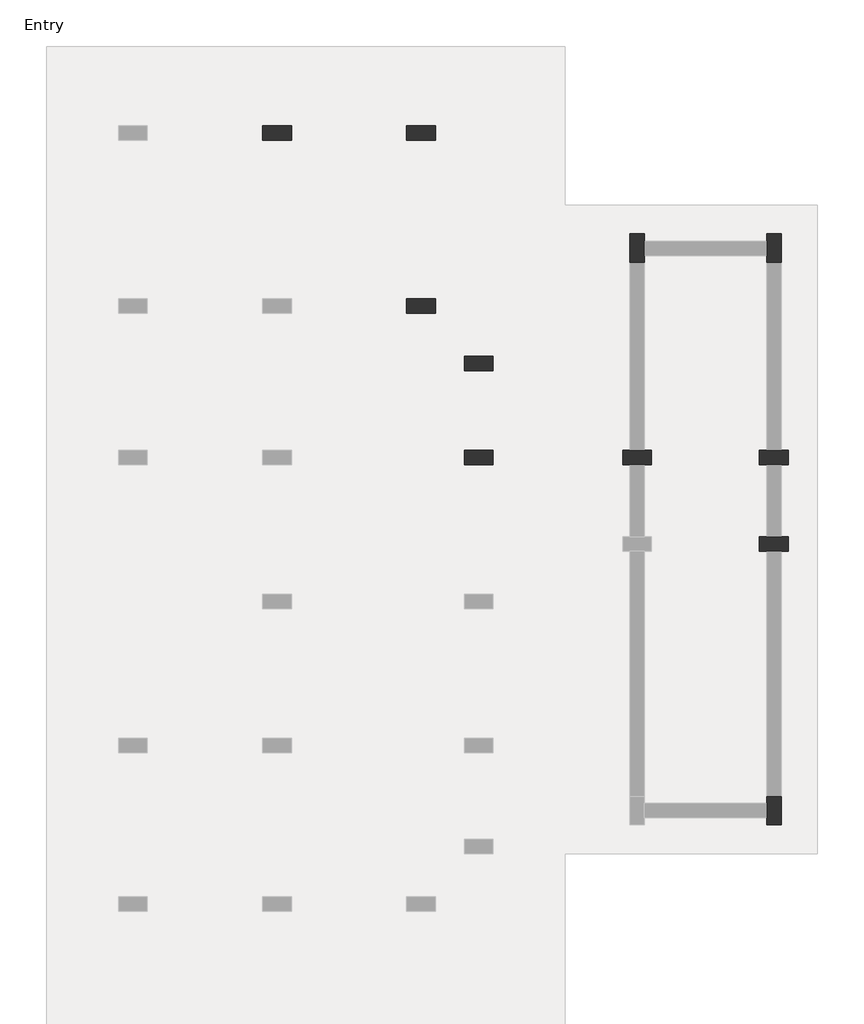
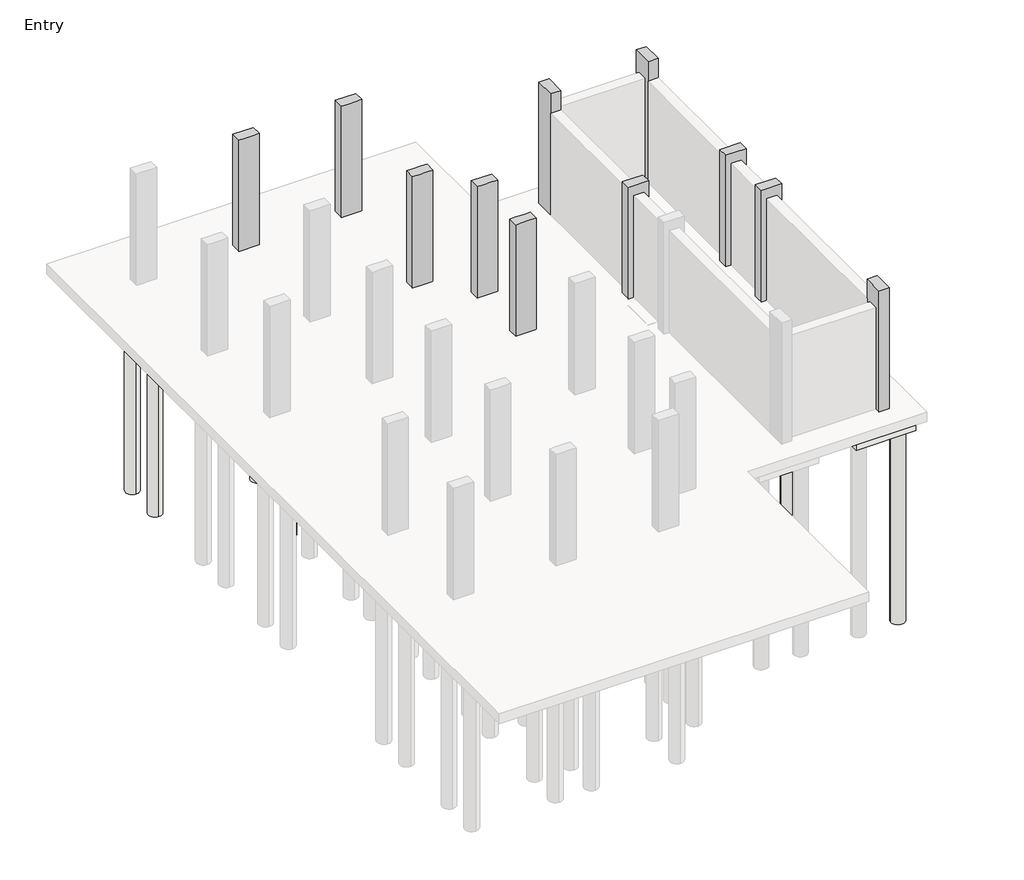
# One storey, part 3 of 3: 35 slabs, 11 columns.
"""IFC4 building model written with IfcOpenShell, lengths in millimetres."""

import ifcopenshell
import ifcopenshell.guid

model = None  # the IFC model being written
_history = None  # IfcOwnerHistory: only IFC2X3 demands one
_inside = {}  # id of a spatial element -> (the spatial element, [elements in it])
_under = {}  # id of a project, library or spatial element -> (it, [spatial elements below it])
_declared = {}  # id of a project -> (the project, [libraries it declares])
_typed = {}  # id of a type object -> (the type object, [elements of that type])
_made_of = {}  # id of a material, layer set ... -> (it, [elements and type objects made of it])


def new_model(schema):
    """Start an empty IFC model of exactly this schema.

    Asked for "IFC4X3", IfcOpenShell would pick the latest addendum, in which some entities
    have other attributes; the version numbers below select the first issue.
    IFC2X3 requires an IfcOwnerHistory on every rooted entity: one is made here for all.
    """
    global model, _history
    if schema == "IFC4X3":
        model = ifcopenshell.file(schema_version=(4, 3, 0, 0))
    else:
        model = ifcopenshell.file(schema=schema)
    _inside.clear()
    _under.clear()
    _declared.clear()
    _typed.clear()
    _made_of.clear()
    _history = None
    if model.schema == "IFC2X3":
        org = make("IfcOrganization", Name="unknown")
        user = make(
            "IfcPersonAndOrganization",
            ThePerson=make("IfcPerson", FamilyName="unknown"),
            TheOrganization=org,
        )
        app = make(
            "IfcApplication",
            ApplicationDeveloper=org,
            Version="unknown",
            ApplicationFullName="unknown",
            ApplicationIdentifier="unknown",
        )
        _history = make(
            "IfcOwnerHistory",
            OwningUser=user,
            OwningApplication=app,
            ChangeAction="ADDED",
            CreationDate=0,
        )
    return model


def make(cls, **values):
    """One entity of the class cls with the attributes given. An attribute that is None is left unset."""
    return model.create_entity(
        cls, **{name: value for name, value in values.items() if value is not None}
    )


def rooted(cls, **values):
    """An entity with a GlobalId (a new one), such as an element, a storey or a relation."""
    return make(cls, GlobalId=ifcopenshell.guid.new(), OwnerHistory=_history, **values)


def si_unit(unit_type, name, prefix=None):
    """IfcSIUnit, for example si_unit("LENGTHUNIT", "METRE", prefix="MILLI")."""
    return make("IfcSIUnit", UnitType=unit_type, Prefix=prefix, Name=name)


def assignment(units):
    """IfcUnitAssignment: the units of a project."""
    return None if units is None else make("IfcUnitAssignment", Units=units)


def point(xyz):
    """IfcCartesianPoint."""
    return None if xyz is None else make("IfcCartesianPoint", Coordinates=xyz)


def direction(xyz):
    """IfcDirection."""
    return None if xyz is None else make("IfcDirection", DirectionRatios=xyz)


def frame(location, z_axis=None, x_axis=None):
    """IfcAxis2Placement3D, a coordinate frame: its origin and axes. An axis left out is left unset."""
    return make(
        "IfcAxis2Placement3D",
        Location=point(location),
        Axis=direction(z_axis),
        RefDirection=direction(x_axis),
    )


def frame_2d(location, x_axis=None):
    """IfcAxis2Placement2D, a coordinate frame in the plane: its origin and x axis."""
    return make(
        "IfcAxis2Placement2D", Location=point(location), RefDirection=direction(x_axis)
    )


def origin():
    """The frame at (0, 0, 0) with its axes left unset."""
    return frame((0.0, 0.0, 0.0))


def place(relative_to, where):
    """IfcLocalPlacement: puts the frame where relative to a parent placement (None: the world)."""
    return make(
        "IfcLocalPlacement", PlacementRelTo=relative_to, RelativePlacement=where
    )


def context(
    kind, dimensions, precision=None, world=None, true_north=None, identifier=None
):
    """IfcGeometricRepresentationContext, for example the 3D "Model" context."""
    return make(
        "IfcGeometricRepresentationContext",
        ContextIdentifier=identifier,
        ContextType=kind,
        CoordinateSpaceDimension=dimensions,
        Precision=precision,
        WorldCoordinateSystem=world,
        TrueNorth=true_north,
    )


def project(units=None, contexts=None):
    """IfcProject with its units and contexts."""
    return rooted(
        "IfcProject",
        Name="project",
        RepresentationContexts=contexts,
        UnitsInContext=assignment(units),
    )


def spatial(cls, under=None, at=None, **own):
    """A site, building, storey or space (cls), placed at a placement, below another one or the project."""
    s = rooted(cls, ObjectPlacement=at, **own)
    if under is not None:
        _under.setdefault(under.id(), (under, []))[1].append(s)
    return s


def polyline(points):
    """IfcPolyline through the points."""
    return make("IfcPolyline", Points=[point(p) for p in points])


def circle_curve(where, radius):
    """IfcCircle in the frame where."""
    return make("IfcCircle", Position=where, Radius=radius)


def trimmed(basis, trim1, trim2, sense, master):
    """IfcTrimmedCurve: the piece of a basis curve between two trims."""
    return make(
        "IfcTrimmedCurve",
        BasisCurve=basis,
        Trim1=trim1,
        Trim2=trim2,
        SenseAgreement=sense,
        MasterRepresentation=master,
    )


def segment(curve, same_sense, transition):
    """IfcCompositeCurveSegment."""
    return make(
        "IfcCompositeCurveSegment",
        Transition=transition,
        SameSense=same_sense,
        ParentCurve=curve,
    )


def composite_curve(segments, self_intersect=None):
    """IfcCompositeCurve: segments joined end to end."""
    return make("IfcCompositeCurve", Segments=segments, SelfIntersect=self_intersect)


def outline(outer, holes=None, kind="AREA"):
    """IfcArbitraryClosedProfileDef: a profile drawn as a closed curve; with holes, ...WithVoids."""
    if holes is None:
        return make("IfcArbitraryClosedProfileDef", ProfileType=kind, OuterCurve=outer)
    return make(
        "IfcArbitraryProfileDefWithVoids",
        ProfileType=kind,
        OuterCurve=outer,
        InnerCurves=holes,
    )


def extrude(swept, where, along, depth):
    """IfcExtrudedAreaSolid: the profile swept, set in the frame where, extruded along a direction by depth."""
    return make(
        "IfcExtrudedAreaSolid",
        SweptArea=swept,
        Position=where,
        ExtrudedDirection=direction(along),
        Depth=depth,
    )


def faces_of(points, faces, orient=None, outer=None):
    """IfcFace entities. A face is a list of loops; a loop is a list of indices into points, from 0.

    orient and outer hold one flag for each loop. By default every Orientation is true, the
    first loop of a face is its IfcFaceOuterBound and the others are IfcFaceBound.
    """
    made = []
    for i, loops in enumerate(faces):
        bounds = []
        for j, loop in enumerate(loops):
            is_outer = j == 0 if outer is None else outer[i][j]
            bounds.append(
                make(
                    "IfcFaceOuterBound" if is_outer else "IfcFaceBound",
                    Bound=make("IfcPolyLoop", Polygon=[points[k] for k in loop]),
                    Orientation=True if orient is None else orient[i][j],
                )
            )
        made.append(make("IfcFace", Bounds=bounds))
    return made


def faceted_brep(points, faces, orient=None, outer=None, voids=None):
    """IfcFacetedBrep: a solid bounded by flat faces; with voids (closed shells), ...WithVoids."""
    shared = [point(p) for p in points]
    hull = make("IfcClosedShell", CfsFaces=faces_of(shared, faces, orient, outer))
    if voids is None:
        return make("IfcFacetedBrep", Outer=hull)
    return make(
        "IfcFacetedBrepWithVoids",
        Outer=hull,
        Voids=[
            make(cls, CfsFaces=faces_of(shared, fs, o, b)) for cls, fs, o, b in voids
        ],
    )


def shape(context_of_items, identifier, shape_type, items):
    """IfcShapeRepresentation: the items that make up one representation, for example the "Body"."""
    return make(
        "IfcShapeRepresentation",
        ContextOfItems=context_of_items,
        RepresentationIdentifier=identifier,
        RepresentationType=shape_type,
        Items=items,
    )


def made_of(thing, what):
    """Note that an element or type object is made of a material, layer set ...; save() writes the relation."""
    if what is not None:
        _made_of.setdefault(what.id(), (what, []))[1].append(thing)
    return thing


def element(
    cls,
    number,
    at=None,
    inside=None,
    cuts=None,
    type_object=None,
    material=None,
    context=None,
    identifier="Body",
    shape_type=None,
    held_by="IfcProductDefinitionShape",
    body=None,
    shapes=None,
    **own,
):
    """One element of the class cls, such as IfcWall. Its Tag is "e" and its number.

    at: its placement. inside: the storey or other place that contains it. cuts: it is an
    opening in that element (IfcRelVoidsElement). A single representation is given by context,
    identifier, shape_type and body (its items); several are given by shapes. held_by: the class
    of the entity that holds the representations. save() writes the other relations.
    """
    e = rooted(cls, Tag="e%d" % number, ObjectPlacement=at, **own)
    if body is not None:
        shapes = [shape(context, identifier, shape_type, body)]
    if shapes is not None:
        e.Representation = make(held_by, Representations=shapes)
    if inside is not None:
        _inside.setdefault(inside.id(), (inside, []))[1].append(e)
    if cuts is not None:
        rooted(
            "IfcRelVoidsElement", RelatingBuildingElement=cuts, RelatedOpeningElement=e
        )
    if type_object is not None:
        _typed.setdefault(type_object.id(), (type_object, []))[1].append(e)
    return made_of(e, material)


def aggregate(whole, parts):
    """IfcRelAggregates: a whole, such as a stair, and the parts it consists of."""
    return rooted("IfcRelAggregates", RelatingObject=whole, RelatedObjects=parts)


def save(model, path):
    """Write the relations noted so far, then the file.

    IfcRelAggregates (storeys below a building ...), IfcRelContainedInSpatialStructure (elements
    in a storey), IfcRelDefinesByType, IfcRelAssociatesMaterial and IfcRelDeclares: one each for
    every whole, place, type object, material and project.
    """
    for whole, parts in _under.values():
        aggregate(whole, parts)
    for where, things in _inside.values():
        rooted(
            "IfcRelContainedInSpatialStructure",
            RelatedElements=things,
            RelatingStructure=where,
        )
    for kind, things in _typed.values():
        rooted("IfcRelDefinesByType", RelatedObjects=things, RelatingType=kind)
    for what, things in _made_of.values():
        rooted("IfcRelAssociatesMaterial", RelatedObjects=things, RelatingMaterial=what)
    for by, libraries in _declared.values():
        rooted("IfcRelDeclares", RelatingContext=by, RelatedDefinitions=libraries)
    model.write(path)


model = new_model("IFC4")

# Units and contexts
model_context = context("Model", 3, world=origin())
ifc_project = project(units=[si_unit("LENGTHUNIT", "METRE", prefix="MILLI")], contexts=[model_context])

# Site, building, storey
site = spatial("IfcSite", under=ifc_project)
building = spatial("IfcBuilding", under=site)
storey = spatial("IfcBuildingStorey", under=building, Name="Entry", Elevation=0.0)

# Columns
placement = place(None, origin())
element("IfcColumn", 1, ObjectType="Concrete-Rectangular-Column : 12 x 24", at=placement, inside=storey, context=model_context, shape_type="Brep", body=[
    faceted_brep([(-10423.1073204, 23769.0572372, 0.0), (-9813.5073204, 23769.0572372, 0.0), (-9813.5073204, 23464.2572372, 0.0), (-10423.1073204, 23464.2572372, 0.0), (-10423.1073204, 23769.0572372, 3505.2), (-9813.5073204, 23769.0572372, 3505.2), (-9813.5073204, 23769.0572372, 2895.6), (-10423.1073204, 23769.0572372, 2895.6), (-9813.5073204, 23464.2572372, 3505.2), (-9813.5073204, 23464.2572372, 2895.6), (-9965.9073204, 23464.2572372, 3505.2), (-10270.7073204, 23464.2572372, 3505.2), (-10423.1073204, 23464.2572372, 3505.2), (-10423.1073204, 23464.2572372, 2895.6)], [[[0, 1, 2, 3]], [[4, 5, 6, 1, 0, 7]], [[5, 8, 9, 2, 1, 6]], [[8, 10, 11, 12, 13, 3, 2, 9]], [[12, 4, 7, 0, 3, 13]], [[4, 12, 11, 10, 8, 5]]]),
])
element("IfcColumn", 2, ObjectType="Concrete-Rectangular-Column : 12 x 24", at=placement, inside=storey, context=model_context, shape_type="Brep", body=[
    faceted_brep([(-7375.1073204, 23769.0572372, 0.0), (-6765.5073204, 23769.0572372, 0.0), (-6765.5073204, 23464.2572372, 0.0), (-7375.1073204, 23464.2572372, 0.0), (-7375.1073204, 23769.0572372, 3505.2), (-6765.5073204, 23769.0572372, 3505.2), (-7375.1073204, 23769.0572372, 2895.6), (-6765.5073204, 23464.2572372, 3505.2), (-6917.9073204, 23464.2572372, 3505.2), (-7222.7073204, 23464.2572372, 3505.2), (-7375.1073204, 23464.2572372, 3505.2), (-7375.1073204, 23464.2572372, 2895.6)], [[[0, 1, 2, 3]], [[4, 5, 1, 0, 6]], [[5, 7, 2, 1]], [[7, 8, 9, 10, 11, 3, 2]], [[10, 4, 6, 0, 3, 11]], [[4, 10, 9, 8, 7, 5]]]),
])
element("IfcColumn", 3, ObjectType="Concrete-Rectangular-Column : 12 x 24", at=placement, inside=storey, context=model_context, shape_type="Brep", body=[
    faceted_brep([(-7375.1073204, 20111.4572372, 0.0), (-6765.5073204, 20111.4572372, 0.0), (-6765.5073204, 19806.6572372, 0.0), (-7375.1073204, 19806.6572372, 0.0), (-7375.1073204, 20111.4572372, 3505.2), (-7222.7073204, 20111.4572372, 3505.2), (-6917.9073204, 20111.4572372, 3505.2), (-6765.5073204, 20111.4572372, 3505.2), (-7375.1073204, 20111.4572372, 2895.6), (-6765.5073204, 19806.6572372, 3505.2), (-6917.9073204, 19806.6572372, 3505.2), (-7222.7073204, 19806.6572372, 3505.2), (-7375.1073204, 19806.6572372, 3505.2), (-7375.1073204, 19806.6572372, 2895.6)], [[[0, 1, 2, 3]], [[4, 5, 6, 7, 1, 0, 8]], [[7, 9, 2, 1]], [[9, 10, 11, 12, 13, 3, 2]], [[12, 4, 8, 0, 3, 13]], [[4, 12, 11, 10, 9, 7, 6, 5]]]),
])
element("IfcColumn", 4, ObjectType="Concrete-Rectangular-Column : 12 x 24", at=placement, inside=storey, context=model_context, shape_type="Brep", body=[
    faceted_brep([(-6156.6500241, 18892.9999409, 0.0), (-5547.0500241, 18892.9999409, 0.0), (-5547.0500241, 18588.1999409, 0.0), (-6156.6500241, 18588.1999409, 0.0), (-6156.6500241, 18892.9999409, 3505.2), (-5547.0500241, 18892.9999409, 3505.2), (-6156.6500241, 18892.9999409, 2895.6), (-5547.0500241, 18588.1999409, 3505.2), (-5699.4500241, 18588.1999409, 3505.2), (-6004.2500241, 18588.1999409, 3505.2), (-6156.6500241, 18588.1999409, 3505.2), (-6156.6500241, 18588.1999409, 2895.6)], [[[0, 1, 2, 3]], [[4, 5, 1, 0, 6]], [[5, 7, 2, 1]], [[7, 8, 9, 10, 11, 3, 2]], [[10, 4, 6, 0, 3, 11]], [[4, 10, 9, 8, 7, 5]]]),
])
element("IfcColumn", 5, ObjectType="Concrete-Rectangular-Column : 12 x 24", at=placement, inside=storey, context=model_context, shape_type="Brep", body=[
    faceted_brep([(-6156.6500241, 16911.0572372, 0.0), (-5547.0500241, 16911.0572372, 0.0), (-5547.0500241, 16606.2572372, 0.0), (-6156.6500241, 16606.2572372, 0.0), (-6156.6500241, 16911.0572372, 3505.2), (-6004.2500241, 16911.0572372, 3505.2), (-5699.4500241, 16911.0572372, 3505.2), (-5547.0500241, 16911.0572372, 3505.2), (-5547.0500241, 16911.0572372, 2895.6), (-6156.6500241, 16911.0572372, 2895.6), (-5547.0500241, 16606.2572372, 3505.2), (-5547.0500241, 16606.2572372, 2895.6), (-5699.4500241, 16606.2572372, 3505.2), (-6004.2500241, 16606.2572372, 3505.2), (-6156.6500241, 16606.2572372, 3505.2), (-6156.6500241, 16606.2572372, 2895.6)], [[[0, 1, 2, 3]], [[4, 5, 6, 7, 8, 1, 0, 9]], [[7, 10, 11, 2, 1, 8]], [[10, 12, 13, 14, 15, 3, 2, 11]], [[14, 4, 9, 0, 3, 15]], [[4, 14, 13, 12, 10, 7, 6, 5]]]),
])
element("IfcColumn", 6, ObjectType="Concrete-Rectangular-Column : 12 x 24", at=placement, inside=storey, context=model_context, shape_type="Brep", body=[
    faceted_brep([(-2803.8500241, 16911.0572372, 0.0), (-2651.4500241, 16911.0572372, 0.0), (-2346.6500241, 16911.0572372, 0.0), (-2194.2500241, 16911.0572372, 0.0), (-2194.2500241, 16606.2572372, 0.0), (-2346.6500241, 16606.2572372, 0.0), (-2651.4500241, 16606.2572372, 0.0), (-2803.8500241, 16606.2572372, 0.0), (-2803.8500241, 16911.0572372, 3505.2), (-2194.2500241, 16911.0572372, 3505.2), (-2194.2500241, 16606.2572372, 3505.2), (-2803.8500241, 16606.2572372, 3505.2)], [[[0, 1, 2, 3, 4, 5, 6, 7]], [[3, 2, 1, 0, 8, 9]], [[4, 3, 9, 10]], [[7, 6, 5, 4, 10, 11]], [[0, 7, 11, 8]], [[9, 8, 11, 10]]]),
])
element("IfcColumn", 7, ObjectType="Concrete-Rectangular-Column : 12 x 24", at=placement, inside=storey, context=model_context, shape_type="Brep", body=[
    faceted_brep([(89.9860546, 16911.0572372, 0.0), (242.3860546, 16911.0572372, 0.0), (547.1860546, 16911.0572372, 0.0), (699.5860546, 16911.0572372, 0.0), (699.5860546, 16606.2572372, 0.0), (547.1860546, 16606.2572372, 0.0), (242.3860546, 16606.2572372, 0.0), (89.9860546, 16606.2572372, 0.0), (89.9860546, 16911.0572372, 3505.2), (699.5860546, 16911.0572372, 3505.2), (699.5860546, 16606.2572372, 3505.2), (89.9860546, 16606.2572372, 3505.2)], [[[0, 1, 2, 3, 4, 5, 6, 7]], [[3, 2, 1, 0, 8, 9]], [[4, 3, 9, 10]], [[7, 6, 5, 4, 10, 11]], [[0, 7, 11, 8]], [[9, 8, 11, 10]]]),
])
element("IfcColumn", 8, ObjectType="Concrete-Rectangular-Column : 12 x 24", at=placement, inside=storey, context=model_context, shape_type="Brep", body=[
    faceted_brep([(89.9860546, 15082.2572372, 0.0), (242.3860546, 15082.2572372, 0.0), (547.1860546, 15082.2572372, 0.0), (699.5860546, 15082.2572372, 0.0), (699.5860546, 14777.4572372, 0.0), (547.1860546, 14777.4572372, 0.0), (242.3860546, 14777.4572372, 0.0), (89.9860546, 14777.4572372, 0.0), (89.9860546, 15082.2572372, 3505.2), (699.5860546, 15082.2572372, 3505.2), (699.5860546, 14777.4572372, 3505.2), (89.9860546, 14777.4572372, 3505.2)], [[[0, 1, 2, 3, 4, 5, 6, 7]], [[3, 2, 1, 0, 8, 9]], [[4, 3, 9, 10]], [[7, 6, 5, 4, 10, 11]], [[0, 7, 11, 8]], [[9, 8, 11, 10]]]),
])
element("IfcColumn", 9, ObjectType="Concrete-Rectangular-Column : 12 x 24", at=placement, inside=storey, context=model_context, shape_type="Brep", body=[
    faceted_brep([(-2346.6500241, 21483.0572372, 0.0), (-2346.6500241, 21330.6572372, 0.0), (-2346.6500241, 21025.8572372, 0.0), (-2346.6500241, 20873.4572372, 0.0), (-2651.4500241, 20873.4572372, 0.0), (-2651.4500241, 21483.0572372, 0.0), (-2346.6500241, 21483.0572372, 3810.0), (-2346.6500241, 20873.4572372, 3810.0), (-2346.6500241, 20873.4572372, 3200.4), (-2651.4500241, 20873.4572372, 3810.0), (-2651.4500241, 20873.4572372, 3200.4), (-2651.4500241, 21483.0572372, 3810.0)], [[[0, 1, 2, 3, 4, 5]], [[6, 7, 8, 3, 2, 1, 0]], [[7, 9, 10, 4, 3, 8]], [[9, 11, 5, 4, 10]], [[11, 6, 0, 5]], [[6, 11, 9, 7]]]),
])
element("IfcColumn", 10, ObjectType="Concrete-Rectangular-Column : 12 x 24", at=placement, inside=storey, context=model_context, shape_type="Brep", body=[
    faceted_brep([(547.1860546, 21483.0572372, 0.0), (547.1860546, 20873.4572372, 0.0), (242.3860546, 20873.4572372, 0.0), (242.3860546, 21025.8572372, 0.0), (242.3860546, 21330.6572372, 0.0), (242.3860546, 21483.0572372, 0.0), (547.1860546, 21483.0572372, 3810.0), (547.1860546, 20873.4572372, 3810.0), (547.1860546, 20873.4572372, 3200.4), (242.3860546, 20873.4572372, 3810.0), (242.3860546, 20873.4572372, 3200.4), (242.3860546, 21483.0572372, 3810.0)], [[[0, 1, 2, 3, 4, 5]], [[6, 7, 8, 1, 0]], [[7, 9, 10, 2, 1, 8]], [[9, 11, 5, 4, 3, 2, 10]], [[11, 6, 0, 5]], [[6, 11, 9, 7]]]),
])
element("IfcColumn", 11, ObjectType="Concrete-Rectangular-Column : 12 x 24", at=placement, inside=storey, context=model_context, shape_type="Brep", body=[
    faceted_brep([(547.1860546, 9595.8572372, 0.0), (547.1860546, 8986.2572372, 0.0), (242.3860546, 8986.2572372, 0.0), (242.3860546, 9138.6572372, 0.0), (242.3860546, 9443.4572372, 0.0), (242.3860546, 9595.8572372, 0.0), (547.1860546, 9595.8572372, 3810.0), (547.1860546, 8986.2572372, 3810.0), (547.1860546, 9595.8572372, 3200.4), (242.3860546, 8986.2572372, 3810.0), (242.3860546, 9595.8572372, 3810.0), (242.3860546, 9595.8572372, 3200.4)], [[[0, 1, 2, 3, 4, 5]], [[6, 7, 1, 0, 8]], [[7, 9, 2, 1]], [[9, 10, 11, 5, 4, 3, 2]], [[10, 6, 8, 0, 5, 11]], [[6, 10, 9, 7]]]),
])

# Slabs
element("IfcSlab", 12, ObjectType="Pile Cap-2 Pile : 31\"x61\"x35\"", at=placement, inside=storey, context=model_context, shape_type="SweptSolid", body=[
    extrude(outline(polyline([(-7476.7073204, 20848.0572372), (-6663.9073204, 20848.0572372), (-6663.9073204, 19070.0572372), (-7476.7073204, 19070.0572372), (-7476.7073204, 20848.0572372)])), frame((0.0, 0.0, -889.0), z_axis=(0.0, 0.0, 1.0), x_axis=(1.0, 0.0, 0.0)), (0.0, 0.0, 1.0), 584.2),
])
element("IfcSlab", 13, ObjectType="Pile Cap-2 Pile : 31\"x61\"x35\"", at=placement, inside=storey, context=model_context, shape_type="SweptSolid", body=[
    extrude(outline(polyline([(-10524.7073204, 24505.6572372), (-9711.9073204, 24505.6572372), (-9711.9073204, 22727.6572372), (-10524.7073204, 22727.6572372), (-10524.7073204, 24505.6572372)])), frame((0.0, 0.0, -889.0), z_axis=(0.0, 0.0, 1.0), x_axis=(1.0, 0.0, 0.0)), (0.0, 0.0, 1.0), 584.2),
])
element("IfcSlab", 14, ObjectType="Pile Cap-2 Pile : 31\"x61\"x35\"", at=placement, inside=storey, context=model_context, shape_type="SweptSolid", body=[
    extrude(outline(polyline([(-7476.7073204, 24505.6572372), (-6663.9073204, 24505.6572372), (-6663.9073204, 22727.6572372), (-7476.7073204, 22727.6572372), (-7476.7073204, 24505.6572372)])), frame((0.0, 0.0, -889.0), z_axis=(0.0, 0.0, 1.0), x_axis=(1.0, 0.0, 0.0)), (0.0, 0.0, 1.0), 584.2),
])
element("IfcSlab", 15, ObjectType="Pile Cap-2 Pile : 31\"x61\"x35\"", at=placement, inside=storey, context=model_context, shape_type="SweptSolid", body=[
    extrude(outline(polyline([(-6258.2500241, 17647.6572372), (-5445.4500241, 17647.6572372), (-5445.4500241, 15869.6572372), (-6258.2500241, 15869.6572372), (-6258.2500241, 17647.6572372)])), frame((0.0, 0.0, -889.0), z_axis=(0.0, 0.0, 1.0), x_axis=(1.0, 0.0, 0.0)), (0.0, 0.0, 1.0), 584.2),
])
element("IfcSlab", 16, ObjectType="Pile Cap-2 Pile : 31\"x61\"x35\"", at=placement, inside=storey, context=model_context, shape_type="SweptSolid", body=[
    extrude(outline(polyline([(-1610.0500241, 21584.6572372), (-1610.0500241, 20771.8572372), (-3388.0500241, 20771.8572372), (-3388.0500241, 21584.6572372), (-1610.0500241, 21584.6572372)])), frame((0.0, 0.0, -889.0), z_axis=(0.0, 0.0, 1.0), x_axis=(1.0, 0.0, 0.0)), (0.0, 0.0, 1.0), 584.2),
])
element("IfcSlab", 17, ObjectType="Pile Cap-2 Pile : 31\"x61\"x35\"", at=placement, inside=storey, context=model_context, shape_type="SweptSolid", body=[
    extrude(outline(polyline([(1283.7860546, 21584.6572372), (1283.7860546, 20771.8572372), (-494.2139454, 20771.8572372), (-494.2139454, 21584.6572372), (1283.7860546, 21584.6572372)])), frame((0.0, 0.0, -889.0), z_axis=(0.0, 0.0, 1.0), x_axis=(1.0, 0.0, 0.0)), (0.0, 0.0, 1.0), 584.2),
])
element("IfcSlab", 18, ObjectType="Pile Cap-2 Pile : 31\"x61\"x35\"", at=placement, inside=storey, context=model_context, shape_type="SweptSolid", body=[
    extrude(outline(polyline([(-494.2139454, 16352.2572372), (-494.2139454, 17165.0572372), (1283.7860546, 17165.0572372), (1283.7860546, 16352.2572372), (-494.2139454, 16352.2572372)])), frame((0.0, 0.0, -889.0), z_axis=(0.0, 0.0, 1.0), x_axis=(1.0, 0.0, 0.0)), (0.0, 0.0, 1.0), 584.2),
])
element("IfcSlab", 19, ObjectType="Pile Cap-2 Pile : 31\"x61\"x35\"", at=placement, inside=storey, context=model_context, shape_type="SweptSolid", body=[
    extrude(outline(polyline([(-494.2139454, 14523.4572372), (-494.2139454, 15336.2572372), (1283.7860546, 15336.2572372), (1283.7860546, 14523.4572372), (-494.2139454, 14523.4572372)])), frame((0.0, 0.0, -889.0), z_axis=(0.0, 0.0, 1.0), x_axis=(1.0, 0.0, 0.0)), (0.0, 0.0, 1.0), 584.2),
])
element("IfcSlab", 20, ObjectType="Pile Cap-2 Pile : 31\"x61\"x35\"", at=placement, inside=storey, context=model_context, shape_type="SweptSolid", body=[
    extrude(outline(polyline([(-3388.0500241, 16352.2572372), (-3388.0500241, 17165.0572372), (-1610.0500241, 17165.0572372), (-1610.0500241, 16352.2572372), (-3388.0500241, 16352.2572372)])), frame((0.0, 0.0, -889.0), z_axis=(0.0, 0.0, 1.0), x_axis=(1.0, 0.0, 0.0)), (0.0, 0.0, 1.0), 584.2),
])
element("IfcSlab", 21, ObjectType="Pile Cap-2 Pile : 31\"x61\"x35\"", at=placement, inside=storey, context=model_context, shape_type="SweptSolid", body=[
    extrude(outline(polyline([(1283.7860546, 9697.4572372), (1283.7860546, 8884.6572372), (-494.2139454, 8884.6572372), (-494.2139454, 9697.4572372), (1283.7860546, 9697.4572372)])), frame((0.0, 0.0, -889.0), z_axis=(0.0, 0.0, 1.0), x_axis=(1.0, 0.0, 0.0)), (0.0, 0.0, 1.0), 584.2),
])
element("IfcSlab", 22, ObjectType="Pile Cap-2 Pile : 31\"x61\"x35\"", at=placement, inside=storey, context=model_context, shape_type="SweptSolid", body=[
    extrude(outline(polyline([(-5445.4500241, 17850.8572372), (-6258.2500241, 17850.8572372), (-6258.2500241, 19628.8572372), (-5445.4500241, 19628.8572372), (-5445.4500241, 17850.8572372)])), frame((0.0, 0.0, -889.0), z_axis=(0.0, 0.0, 1.0), x_axis=(1.0, 0.0, 0.0)), (0.0, 0.0, 1.0), 584.2),
])
element("IfcSlab", 23, ObjectType="Pile-Steel Pipe : 16\" Diameter", at=placement, inside=storey, context=model_context, shape_type="SweptSolid", body=[
    extrude(outline(composite_curve([segment(trimmed(circle_curve(frame_2d((-9584.9073204, 20492.4572372)), 203.2), [point((-9584.9073204, 20289.2572372))], [point((-9584.9073204, 20695.6572372))], False, "CARTESIAN"), True, "CONTINUOUS"), segment(trimmed(circle_curve(frame_2d((-9584.9073204, 20492.4572372)), 203.2), [point((-9584.9073204, 20695.6572372))], [point((-9584.9073204, 20289.2572372))], False, "CARTESIAN"), True, "CONTINUOUS")], self_intersect=False)), frame((0.0, 0.0, -6985.0), z_axis=(0.0, 0.0, 1.0), x_axis=(1.0, 0.0, 0.0)), (0.0, 0.0, 1.0), 6096.0),
])
element("IfcSlab", 24, ObjectType="Pile-Steel Pipe : 16\" Diameter", at=placement, inside=storey, context=model_context, shape_type="SweptSolid", body=[
    extrude(outline(composite_curve([segment(trimmed(circle_curve(frame_2d((-10651.7073204, 20492.4572372)), 203.2), [point((-10651.7073204, 20289.2572372))], [point((-10651.7073204, 20695.6572372))], False, "CARTESIAN"), True, "CONTINUOUS"), segment(trimmed(circle_curve(frame_2d((-10651.7073204, 20492.4572372)), 203.2), [point((-10651.7073204, 20695.6572372))], [point((-10651.7073204, 20289.2572372))], False, "CARTESIAN"), True, "CONTINUOUS")], self_intersect=False)), frame((0.0, 0.0, -6985.0), z_axis=(0.0, 0.0, 1.0), x_axis=(1.0, 0.0, 0.0)), (0.0, 0.0, 1.0), 6096.0),
])
element("IfcSlab", 25, ObjectType="Pile-Steel Pipe : 16\" Diameter", at=placement, inside=storey, context=model_context, shape_type="SweptSolid", body=[
    extrude(outline(composite_curve([segment(trimmed(circle_curve(frame_2d((-13166.3073204, 23032.4572372)), 203.2), [point((-13166.3073204, 22829.2572372))], [point((-13166.3073204, 23235.6572372))], False, "CARTESIAN"), True, "CONTINUOUS"), segment(trimmed(circle_curve(frame_2d((-13166.3073204, 23032.4572372)), 203.2), [point((-13166.3073204, 23235.6572372))], [point((-13166.3073204, 22829.2572372))], False, "CARTESIAN"), True, "CONTINUOUS")], self_intersect=False)), frame((0.0, 0.0, -6985.0), z_axis=(0.0, 0.0, 1.0), x_axis=(1.0, 0.0, 0.0)), (0.0, 0.0, 1.0), 6096.0),
])
element("IfcSlab", 26, ObjectType="Pile-Steel Pipe : 16\" Diameter", at=placement, inside=storey, context=model_context, shape_type="SweptSolid", body=[
    extrude(outline(composite_curve([segment(trimmed(circle_curve(frame_2d((-13166.3073204, 24200.8572372)), 203.2), [point((-13166.3073204, 23997.6572372))], [point((-13166.3073204, 24404.0572372))], False, "CARTESIAN"), True, "CONTINUOUS"), segment(trimmed(circle_curve(frame_2d((-13166.3073204, 24200.8572372)), 203.2), [point((-13166.3073204, 24404.0572372))], [point((-13166.3073204, 23997.6572372))], False, "CARTESIAN"), True, "CONTINUOUS")], self_intersect=False)), frame((0.0, 0.0, -6985.0), z_axis=(0.0, 0.0, 1.0), x_axis=(1.0, 0.0, 0.0)), (0.0, 0.0, 1.0), 6096.0),
])
element("IfcSlab", 27, ObjectType="Pile-Steel Pipe : 16\" Diameter", at=placement, inside=storey, context=model_context, shape_type="SweptSolid", body=[
    extrude(outline(composite_curve([segment(trimmed(circle_curve(frame_2d((-7070.3073204, 19374.8572372)), 203.2), [point((-7070.3073204, 19171.6572372))], [point((-7070.3073204, 19578.0572372))], False, "CARTESIAN"), True, "CONTINUOUS"), segment(trimmed(circle_curve(frame_2d((-7070.3073204, 19374.8572372)), 203.2), [point((-7070.3073204, 19578.0572372))], [point((-7070.3073204, 19171.6572372))], False, "CARTESIAN"), True, "CONTINUOUS")], self_intersect=False)), frame((0.0, 0.0, -6985.0), z_axis=(0.0, 0.0, 1.0), x_axis=(1.0, 0.0, 0.0)), (0.0, 0.0, 1.0), 6096.0),
])
element("IfcSlab", 28, ObjectType="Pile-Steel Pipe : 16\" Diameter", at=placement, inside=storey, context=model_context, shape_type="SweptSolid", body=[
    extrude(outline(composite_curve([segment(trimmed(circle_curve(frame_2d((-7070.3073204, 20543.2572372)), 203.2), [point((-7070.3073204, 20340.0572372))], [point((-7070.3073204, 20746.4572372))], False, "CARTESIAN"), True, "CONTINUOUS"), segment(trimmed(circle_curve(frame_2d((-7070.3073204, 20543.2572372)), 203.2), [point((-7070.3073204, 20746.4572372))], [point((-7070.3073204, 20340.0572372))], False, "CARTESIAN"), True, "CONTINUOUS")], self_intersect=False)), frame((0.0, 0.0, -6985.0), z_axis=(0.0, 0.0, 1.0), x_axis=(1.0, 0.0, 0.0)), (0.0, 0.0, 1.0), 6096.0),
])
element("IfcSlab", 29, ObjectType="Pile-Steel Pipe : 16\" Diameter", at=placement, inside=storey, context=model_context, shape_type="SweptSolid", body=[
    extrude(outline(composite_curve([segment(trimmed(circle_curve(frame_2d((-10118.3073204, 23032.4572372)), 203.2), [point((-10118.3073204, 22829.2572372))], [point((-10118.3073204, 23235.6572372))], False, "CARTESIAN"), True, "CONTINUOUS"), segment(trimmed(circle_curve(frame_2d((-10118.3073204, 23032.4572372)), 203.2), [point((-10118.3073204, 23235.6572372))], [point((-10118.3073204, 22829.2572372))], False, "CARTESIAN"), True, "CONTINUOUS")], self_intersect=False)), frame((0.0, 0.0, -6985.0), z_axis=(0.0, 0.0, 1.0), x_axis=(1.0, 0.0, 0.0)), (0.0, 0.0, 1.0), 6096.0),
])
element("IfcSlab", 30, ObjectType="Pile-Steel Pipe : 16\" Diameter", at=placement, inside=storey, context=model_context, shape_type="SweptSolid", body=[
    extrude(outline(composite_curve([segment(trimmed(circle_curve(frame_2d((-10118.3073204, 24200.8572372)), 203.2), [point((-10118.3073204, 23997.6572372))], [point((-10118.3073204, 24404.0572372))], False, "CARTESIAN"), True, "CONTINUOUS"), segment(trimmed(circle_curve(frame_2d((-10118.3073204, 24200.8572372)), 203.2), [point((-10118.3073204, 24404.0572372))], [point((-10118.3073204, 23997.6572372))], False, "CARTESIAN"), True, "CONTINUOUS")], self_intersect=False)), frame((0.0, 0.0, -6985.0), z_axis=(0.0, 0.0, 1.0), x_axis=(1.0, 0.0, 0.0)), (0.0, 0.0, 1.0), 6096.0),
])
element("IfcSlab", 31, ObjectType="Pile-Steel Pipe : 16\" Diameter", at=placement, inside=storey, context=model_context, shape_type="SweptSolid", body=[
    extrude(outline(composite_curve([segment(trimmed(circle_curve(frame_2d((-7070.3073204, 23032.4572372)), 203.2), [point((-7070.3073204, 22829.2572372))], [point((-7070.3073204, 23235.6572372))], False, "CARTESIAN"), True, "CONTINUOUS"), segment(trimmed(circle_curve(frame_2d((-7070.3073204, 23032.4572372)), 203.2), [point((-7070.3073204, 23235.6572372))], [point((-7070.3073204, 22829.2572372))], False, "CARTESIAN"), True, "CONTINUOUS")], self_intersect=False)), frame((0.0, 0.0, -6985.0), z_axis=(0.0, 0.0, 1.0), x_axis=(1.0, 0.0, 0.0)), (0.0, 0.0, 1.0), 6096.0),
])
element("IfcSlab", 32, ObjectType="Pile-Steel Pipe : 16\" Diameter", at=placement, inside=storey, context=model_context, shape_type="SweptSolid", body=[
    extrude(outline(composite_curve([segment(trimmed(circle_curve(frame_2d((-7070.3073204, 24200.8572372)), 203.2), [point((-7070.3073204, 23997.6572372))], [point((-7070.3073204, 24404.0572372))], False, "CARTESIAN"), True, "CONTINUOUS"), segment(trimmed(circle_curve(frame_2d((-7070.3073204, 24200.8572372)), 203.2), [point((-7070.3073204, 24404.0572372))], [point((-7070.3073204, 23997.6572372))], False, "CARTESIAN"), True, "CONTINUOUS")], self_intersect=False)), frame((0.0, 0.0, -6985.0), z_axis=(0.0, 0.0, 1.0), x_axis=(1.0, 0.0, 0.0)), (0.0, 0.0, 1.0), 6096.0),
])
element("IfcSlab", 33, ObjectType="Pile-Steel Pipe : 16\" Diameter", at=placement, inside=storey, context=model_context, shape_type="SweptSolid", body=[
    extrude(outline(composite_curve([segment(trimmed(circle_curve(frame_2d((-5851.8500241, 16174.4572372)), 203.2), [point((-5851.8500241, 15971.2572372))], [point((-5851.8500241, 16377.6572372))], False, "CARTESIAN"), True, "CONTINUOUS"), segment(trimmed(circle_curve(frame_2d((-5851.8500241, 16174.4572372)), 203.2), [point((-5851.8500241, 16377.6572372))], [point((-5851.8500241, 15971.2572372))], False, "CARTESIAN"), True, "CONTINUOUS")], self_intersect=False)), frame((0.0, 0.0, -6985.0), z_axis=(0.0, 0.0, 1.0), x_axis=(1.0, 0.0, 0.0)), (0.0, 0.0, 1.0), 6096.0),
])
element("IfcSlab", 34, ObjectType="Pile-Steel Pipe : 16\" Diameter", at=placement, inside=storey, context=model_context, shape_type="SweptSolid", body=[
    extrude(outline(composite_curve([segment(trimmed(circle_curve(frame_2d((-5851.8500241, 17342.8572372)), 203.2), [point((-5851.8500241, 17139.6572372))], [point((-5851.8500241, 17546.0572372))], False, "CARTESIAN"), True, "CONTINUOUS"), segment(trimmed(circle_curve(frame_2d((-5851.8500241, 17342.8572372)), 203.2), [point((-5851.8500241, 17546.0572372))], [point((-5851.8500241, 17139.6572372))], False, "CARTESIAN"), True, "CONTINUOUS")], self_intersect=False)), frame((0.0, 0.0, -6985.0), z_axis=(0.0, 0.0, 1.0), x_axis=(1.0, 0.0, 0.0)), (0.0, 0.0, 1.0), 6096.0),
])
element("IfcSlab", 35, ObjectType="Pile-Steel Pipe : 16\" Diameter", at=placement, inside=storey, context=model_context, shape_type="SweptSolid", body=[
    extrude(outline(composite_curve([segment(trimmed(circle_curve(frame_2d((-3083.2500241, 21178.2572372)), 203.2), [point((-3286.4500241, 21178.2572372))], [point((-2880.0500241, 21178.2572372))], False, "CARTESIAN"), True, "CONTINUOUS"), segment(trimmed(circle_curve(frame_2d((-3083.2500241, 21178.2572372)), 203.2), [point((-2880.0500241, 21178.2572372))], [point((-3286.4500241, 21178.2572372))], False, "CARTESIAN"), True, "CONTINUOUS")], self_intersect=False)), frame((0.0, 0.0, -6985.0), z_axis=(0.0, 0.0, 1.0), x_axis=(1.0, 0.0, 0.0)), (0.0, 0.0, 1.0), 6096.0),
])
element("IfcSlab", 36, ObjectType="Pile-Steel Pipe : 16\" Diameter", at=placement, inside=storey, context=model_context, shape_type="SweptSolid", body=[
    extrude(outline(composite_curve([segment(trimmed(circle_curve(frame_2d((-1914.8500241, 21178.2572372)), 203.2), [point((-2118.0500241, 21178.2572372))], [point((-1711.6500241, 21178.2572372))], False, "CARTESIAN"), True, "CONTINUOUS"), segment(trimmed(circle_curve(frame_2d((-1914.8500241, 21178.2572372)), 203.2), [point((-1711.6500241, 21178.2572372))], [point((-2118.0500241, 21178.2572372))], False, "CARTESIAN"), True, "CONTINUOUS")], self_intersect=False)), frame((0.0, 0.0, -6985.0), z_axis=(0.0, 0.0, 1.0), x_axis=(1.0, 0.0, 0.0)), (0.0, 0.0, 1.0), 6096.0),
])
element("IfcSlab", 37, ObjectType="Pile-Steel Pipe : 16\" Diameter", at=placement, inside=storey, context=model_context, shape_type="SweptSolid", body=[
    extrude(outline(composite_curve([segment(trimmed(circle_curve(frame_2d((-189.4139454, 21178.2572372)), 203.2), [point((-392.6139454, 21178.2572372))], [point((13.7860546, 21178.2572372))], False, "CARTESIAN"), True, "CONTINUOUS"), segment(trimmed(circle_curve(frame_2d((-189.4139454, 21178.2572372)), 203.2), [point((13.7860546, 21178.2572372))], [point((-392.6139454, 21178.2572372))], False, "CARTESIAN"), True, "CONTINUOUS")], self_intersect=False)), frame((0.0, 0.0, -6985.0), z_axis=(0.0, 0.0, 1.0), x_axis=(1.0, 0.0, 0.0)), (0.0, 0.0, 1.0), 6096.0),
])
element("IfcSlab", 38, ObjectType="Pile-Steel Pipe : 16\" Diameter", at=placement, inside=storey, context=model_context, shape_type="SweptSolid", body=[
    extrude(outline(composite_curve([segment(trimmed(circle_curve(frame_2d((978.9860546, 21178.2572372)), 203.2), [point((775.7860546, 21178.2572372))], [point((1182.1860546, 21178.2572372))], False, "CARTESIAN"), True, "CONTINUOUS"), segment(trimmed(circle_curve(frame_2d((978.9860546, 21178.2572372)), 203.2), [point((1182.1860546, 21178.2572372))], [point((775.7860546, 21178.2572372))], False, "CARTESIAN"), True, "CONTINUOUS")], self_intersect=False)), frame((0.0, 0.0, -6985.0), z_axis=(0.0, 0.0, 1.0), x_axis=(1.0, 0.0, 0.0)), (0.0, 0.0, 1.0), 6096.0),
])
element("IfcSlab", 39, ObjectType="Pile-Steel Pipe : 16\" Diameter", at=placement, inside=storey, context=model_context, shape_type="SweptSolid", body=[
    extrude(outline(composite_curve([segment(trimmed(circle_curve(frame_2d((978.9860546, 16758.6572372)), 203.2), [point((1182.1860546, 16758.6572372))], [point((775.7860546, 16758.6572372))], False, "CARTESIAN"), True, "CONTINUOUS"), segment(trimmed(circle_curve(frame_2d((978.9860546, 16758.6572372)), 203.2), [point((775.7860546, 16758.6572372))], [point((1182.1860546, 16758.6572372))], False, "CARTESIAN"), True, "CONTINUOUS")], self_intersect=False)), frame((0.0, 0.0, -6985.0), z_axis=(0.0, 0.0, 1.0), x_axis=(1.0, 0.0, 0.0)), (0.0, 0.0, 1.0), 6096.0),
])
element("IfcSlab", 40, ObjectType="Pile-Steel Pipe : 16\" Diameter", at=placement, inside=storey, context=model_context, shape_type="SweptSolid", body=[
    extrude(outline(composite_curve([segment(trimmed(circle_curve(frame_2d((-189.4139454, 16758.6572372)), 203.2), [point((13.7860546, 16758.6572372))], [point((-392.6139454, 16758.6572372))], False, "CARTESIAN"), True, "CONTINUOUS"), segment(trimmed(circle_curve(frame_2d((-189.4139454, 16758.6572372)), 203.2), [point((-392.6139454, 16758.6572372))], [point((13.7860546, 16758.6572372))], False, "CARTESIAN"), True, "CONTINUOUS")], self_intersect=False)), frame((0.0, 0.0, -6985.0), z_axis=(0.0, 0.0, 1.0), x_axis=(1.0, 0.0, 0.0)), (0.0, 0.0, 1.0), 6096.0),
])
element("IfcSlab", 41, ObjectType="Pile-Steel Pipe : 16\" Diameter", at=placement, inside=storey, context=model_context, shape_type="SweptSolid", body=[
    extrude(outline(composite_curve([segment(trimmed(circle_curve(frame_2d((978.9860546, 14929.8572372)), 203.2), [point((1182.1860546, 14929.8572372))], [point((775.7860546, 14929.8572372))], False, "CARTESIAN"), True, "CONTINUOUS"), segment(trimmed(circle_curve(frame_2d((978.9860546, 14929.8572372)), 203.2), [point((775.7860546, 14929.8572372))], [point((1182.1860546, 14929.8572372))], False, "CARTESIAN"), True, "CONTINUOUS")], self_intersect=False)), frame((0.0, 0.0, -6985.0), z_axis=(0.0, 0.0, 1.0), x_axis=(1.0, 0.0, 0.0)), (0.0, 0.0, 1.0), 6096.0),
])
element("IfcSlab", 42, ObjectType="Pile-Steel Pipe : 16\" Diameter", at=placement, inside=storey, context=model_context, shape_type="SweptSolid", body=[
    extrude(outline(composite_curve([segment(trimmed(circle_curve(frame_2d((-1914.8500241, 16758.6572372)), 203.2), [point((-1711.6500241, 16758.6572372))], [point((-2118.0500241, 16758.6572372))], False, "CARTESIAN"), True, "CONTINUOUS"), segment(trimmed(circle_curve(frame_2d((-1914.8500241, 16758.6572372)), 203.2), [point((-2118.0500241, 16758.6572372))], [point((-1711.6500241, 16758.6572372))], False, "CARTESIAN"), True, "CONTINUOUS")], self_intersect=False)), frame((0.0, 0.0, -6985.0), z_axis=(0.0, 0.0, 1.0), x_axis=(1.0, 0.0, 0.0)), (0.0, 0.0, 1.0), 6096.0),
])
element("IfcSlab", 43, ObjectType="Pile-Steel Pipe : 16\" Diameter", at=placement, inside=storey, context=model_context, shape_type="SweptSolid", body=[
    extrude(outline(composite_curve([segment(trimmed(circle_curve(frame_2d((-3083.2500241, 16758.6572372)), 203.2), [point((-2880.0500241, 16758.6572372))], [point((-3286.4500241, 16758.6572372))], False, "CARTESIAN"), True, "CONTINUOUS"), segment(trimmed(circle_curve(frame_2d((-3083.2500241, 16758.6572372)), 203.2), [point((-3286.4500241, 16758.6572372))], [point((-2880.0500241, 16758.6572372))], False, "CARTESIAN"), True, "CONTINUOUS")], self_intersect=False)), frame((0.0, 0.0, -6985.0), z_axis=(0.0, 0.0, 1.0), x_axis=(1.0, 0.0, 0.0)), (0.0, 0.0, 1.0), 6096.0),
])
element("IfcSlab", 44, ObjectType="Pile-Steel Pipe : 16\" Diameter", at=placement, inside=storey, context=model_context, shape_type="SweptSolid", body=[
    extrude(outline(composite_curve([segment(trimmed(circle_curve(frame_2d((978.9860546, 9291.0572372)), 203.2), [point((775.7860546, 9291.0572372))], [point((1182.1860546, 9291.0572372))], False, "CARTESIAN"), True, "CONTINUOUS"), segment(trimmed(circle_curve(frame_2d((978.9860546, 9291.0572372)), 203.2), [point((1182.1860546, 9291.0572372))], [point((775.7860546, 9291.0572372))], False, "CARTESIAN"), True, "CONTINUOUS")], self_intersect=False)), frame((0.0, 0.0, -6985.0), z_axis=(0.0, 0.0, 1.0), x_axis=(1.0, 0.0, 0.0)), (0.0, 0.0, 1.0), 6096.0),
])
element("IfcSlab", 45, ObjectType="Pile-Steel Pipe : 16\" Diameter", at=placement, inside=storey, context=model_context, shape_type="SweptSolid", body=[
    extrude(outline(composite_curve([segment(trimmed(circle_curve(frame_2d((-5851.8500241, 19324.0572372)), 203.2), [point((-5851.8500241, 19527.2572372))], [point((-5851.8500241, 19120.8572372))], False, "CARTESIAN"), True, "CONTINUOUS"), segment(trimmed(circle_curve(frame_2d((-5851.8500241, 19324.0572372)), 203.2), [point((-5851.8500241, 19120.8572372))], [point((-5851.8500241, 19527.2572372))], False, "CARTESIAN"), True, "CONTINUOUS")], self_intersect=False)), frame((0.0, 0.0, -6985.0), z_axis=(0.0, 0.0, 1.0), x_axis=(1.0, 0.0, 0.0)), (0.0, 0.0, 1.0), 6096.0),
])
element("IfcSlab", 46, ObjectType="Pile-Steel Pipe : 16\" Diameter", at=placement, inside=storey, context=model_context, shape_type="SweptSolid", body=[
    extrude(outline(composite_curve([segment(trimmed(circle_curve(frame_2d((-5851.8500241, 18155.6572372)), 203.2), [point((-5851.8500241, 18358.8572372))], [point((-5851.8500241, 17952.4572372))], False, "CARTESIAN"), True, "CONTINUOUS"), segment(trimmed(circle_curve(frame_2d((-5851.8500241, 18155.6572372)), 203.2), [point((-5851.8500241, 17952.4572372))], [point((-5851.8500241, 18358.8572372))], False, "CARTESIAN"), True, "CONTINUOUS")], self_intersect=False)), frame((0.0, 0.0, -6985.0), z_axis=(0.0, 0.0, 1.0), x_axis=(1.0, 0.0, 0.0)), (0.0, 0.0, 1.0), 6096.0),
])

save(model, "model.ifc")
